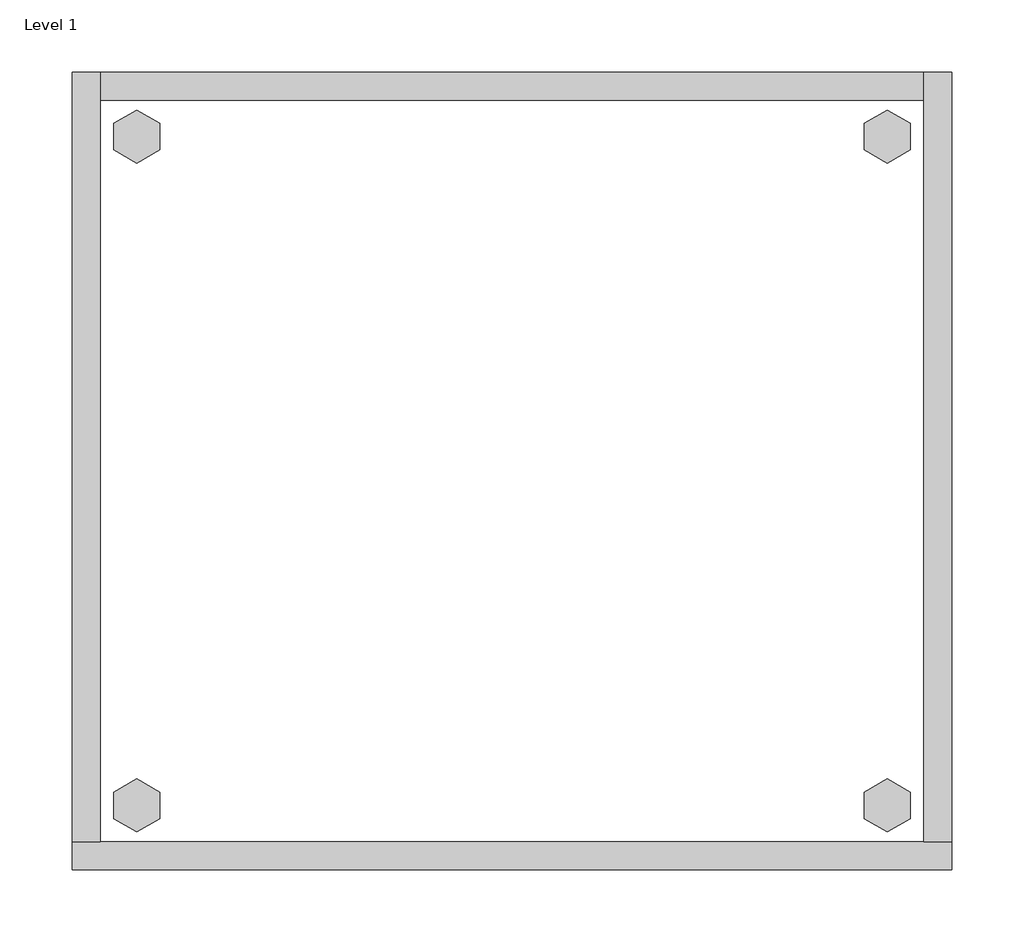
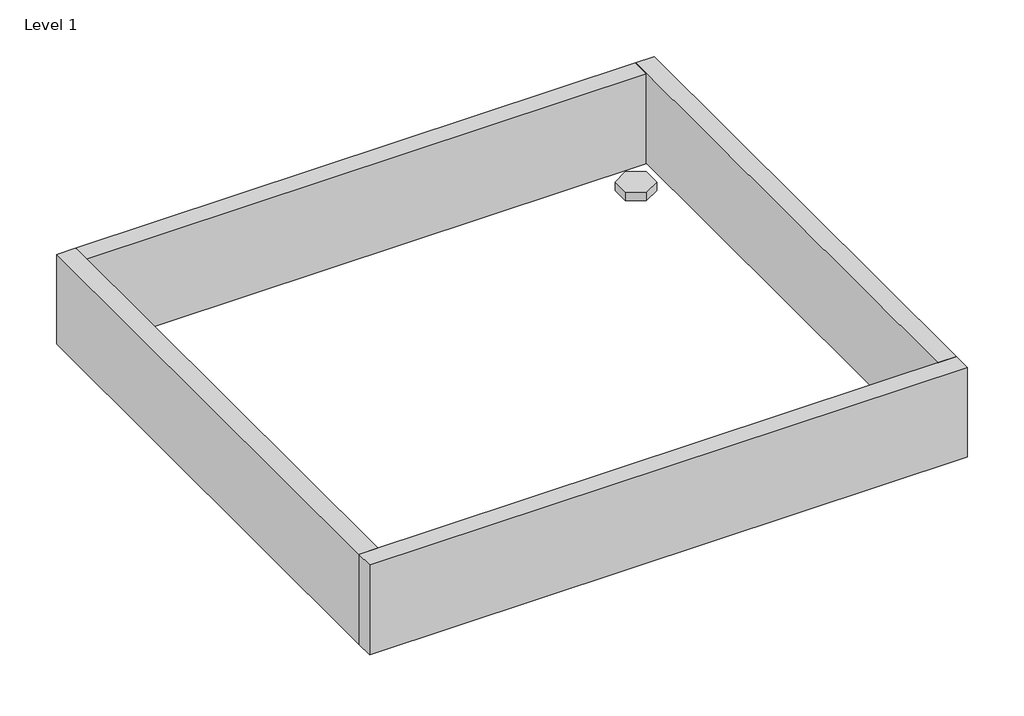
# One storey, incomplete: 1 furniture element.
"""IFC4 building model written with IfcOpenShell, lengths in millimetres."""

from ifc_helpers import new_model, si_unit, origin, place, context, project, spatial, transform, mapped, element, save
from components import furniture_40b373b2

model = new_model("IFC4")

# Units and contexts
model_context = context("Model", 3, world=origin())
ifc_project = project(units=[si_unit("LENGTHUNIT", "METRE", prefix="MILLI")], contexts=[model_context])

# Site, building, storey
site = spatial("IfcSite", under=ifc_project)
building = spatial("IfcBuilding", under=site)
storey = spatial("IfcBuildingStorey", under=building, Name="Level 1", Elevation=0.0)

# Furniture
placement = place(None, origin())
furniture_shape = furniture_40b373b2(model_context)
element("IfcFurniture", 1, ObjectType="HermanMiller_Mora_CH250_PlinthBaseFinished : Flush on Both/Inline HPL 24D 24W", at=placement, inside=storey, context=model_context, shape_type="MappedRepresentation", body=[
    mapped(furniture_shape, transform((0.0, 0.0, 0.0), x_axis=(1.0, 0.0, 0.0), y_axis=(0.0, 1.0, 0.0), z_axis=(0.0, 0.0, 1.0))),
])

save(model, "model.ifc")
